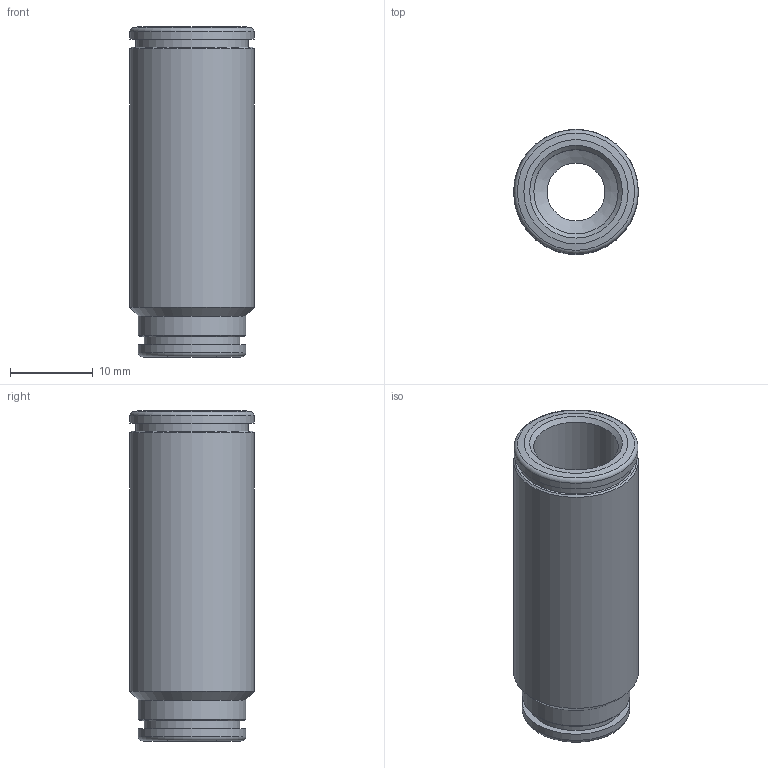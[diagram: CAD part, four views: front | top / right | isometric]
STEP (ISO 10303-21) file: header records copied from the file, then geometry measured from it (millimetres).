
FILE_DESCRIPTION(('Bauteilbeschreibung','HiCAD-Model','HiCAD-STEP-TRANSLATION','Bauteilbeschreibung'),'2;1');
FILE_NAME('B:/ABGLEICH/ZEICHNUNGEN/STEP FÜR INTERNET/STEP/200310_IPSO_03_8_10.STP','2011-07-19T11:35:23+00:00',('Konstrukteur'),('Konstrukteur Firma GmbH'),' HiCAD neXt 2008, Step 3.1.1401.2J ','HiCAD neXt 2008','confidential');
FILE_SCHEMA(('AUTOMOTIVE_DESIGN { 1 2 10303 214 0 1 1 1 }'));
Length unit declared in the file: millimetre
Products named in the file (4): A00310_IPSO_03_8_10; DR10_N; DR8_1_NEU; R200310_N
Assembly tree (3 placements, depth 2):
  A00310_IPSO_03_8_10
    DR10_N
    DR8_1_NEU
    R200310_N
Bounding box: 15.1 x 15.1 x 40 mm (x, y, z)
Volume: 3703.5 mm3; surface area: 4563.5 mm2
Topology: 3 solids, 3 shells, 48 faces, 92 edges, 54 vertices
Faces by surface type: cone 19, cylinder 17, plane 10, torus 2
Full cylindrical faces by diameter (mm): 7 x1, 8.1 x1, 8.2 x1, 10.1 x1, 10.2 x2, 11 x1, 11.5 x1, 11.6 x1, 12.3 x1, 13 x3, 13.6 x1, 13.7 x1, 15 x1, 15.1 x1
Entity records: 1321 total; most frequent: DIRECTION 204, CARTESIAN_POINT 150, AXIS2_PLACEMENT_3D 102, EDGE_LOOP 96, ORIENTED_EDGE 96, COLOUR_RGB 51, PRESENTATION_STYLE_ASSIGNMENT 51, ADVANCED_FACE 48
